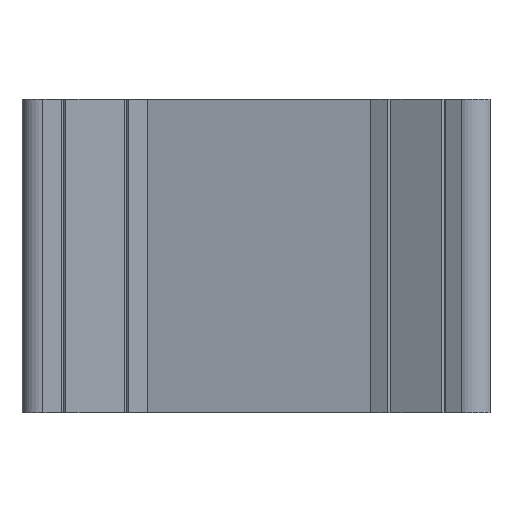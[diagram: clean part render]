
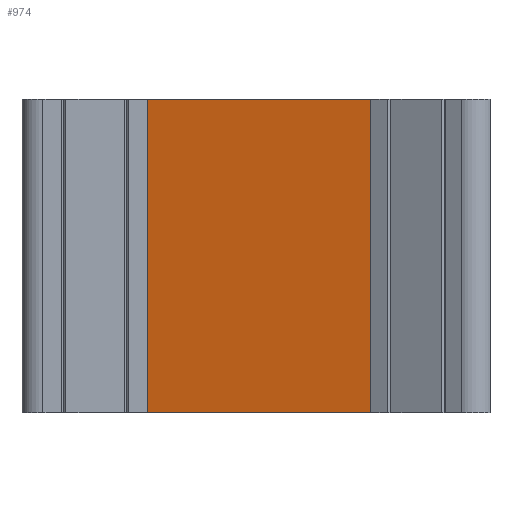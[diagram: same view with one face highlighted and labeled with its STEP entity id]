
A CAD part, top view. The second image highlights one B-rep face of the part: STEP entity #974.
In plain terms, the highlighted planar face has unit normal (-0.259, 0, 0.966).
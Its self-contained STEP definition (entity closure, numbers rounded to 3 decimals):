
#142=ORIENTED_EDGE('',*,*,#292,.T.);
#143=ORIENTED_EDGE('',*,*,#312,.F.);
#144=ORIENTED_EDGE('',*,*,#246,.F.);
#145=ORIENTED_EDGE('',*,*,#305,.T.);
#246=EDGE_CURVE('',#348,#349,#415,.T.);
#292=EDGE_CURVE('',#391,#390,#458,.T.);
#305=EDGE_CURVE('',#348,#391,#471,.T.);
#312=EDGE_CURVE('',#349,#390,#478,.T.);
#348=VERTEX_POINT('',#1256);
#349=VERTEX_POINT('',#1258);
#390=VERTEX_POINT('',#1346);
#391=VERTEX_POINT('',#1348);
#415=LINE('',#1257,#513);
#458=LINE('',#1347,#556);
#471=LINE('',#1371,#569);
#478=LINE('',#1382,#576);
#513=VECTOR('',#1064,1000.);
#556=VECTOR('',#1117,1000.);
#569=VECTOR('',#1134,1000.);
#576=VECTOR('',#1149,1000.);
#612=EDGE_LOOP('',(#142,#143,#144,#145));
#650=FACE_BOUND('',#612,.T.);
#686=PLANE('',#1019);
#974=ADVANCED_FACE('',(#650),#686,.F.);
#1019=AXIS2_PLACEMENT_3D('',#1395,#1166,#1167);
#1064=DIRECTION('',(-0.966,0.,-0.259));
#1117=DIRECTION('',(-0.966,0.,-0.259));
#1134=DIRECTION('',(0.,1.,0.));
#1149=DIRECTION('',(0.,1.,0.));
#1166=DIRECTION('',(0.259,0.,-0.966));
#1167=DIRECTION('',(-0.966,0.,-0.259));
#1256=CARTESIAN_POINT('',(23.421,-37.5,19.296));
#1257=CARTESIAN_POINT('',(23.421,-37.5,19.296));
#1258=CARTESIAN_POINT('',(-29.931,-37.5,5.));
#1346=CARTESIAN_POINT('',(-29.931,37.5,5.));
#1347=CARTESIAN_POINT('',(23.421,37.5,19.296));
#1348=CARTESIAN_POINT('',(23.421,37.5,19.296));
#1371=CARTESIAN_POINT('',(23.421,-37.5,19.296));
#1382=CARTESIAN_POINT('',(-29.931,-37.5,5.));
#1395=CARTESIAN_POINT('',(23.421,-37.5,19.296));
